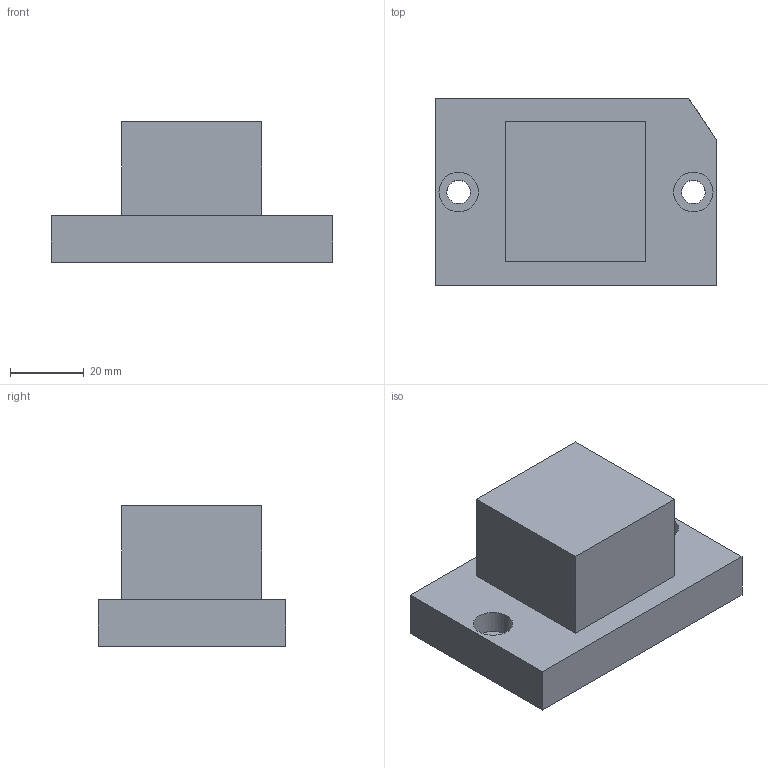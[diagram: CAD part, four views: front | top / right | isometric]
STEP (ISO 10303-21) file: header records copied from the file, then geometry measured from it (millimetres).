
FILE_DESCRIPTION (( 'STEP AP203' ), '1' );
FILE_NAME ('269-18-105.STEP', '2020-03-02T21:41:45', ( '' ), ( '' ), 'SwSTEP 2.0', 'SolidWorks 2017', '' );
FILE_SCHEMA (( 'CONFIG_CONTROL_DESIGN' ));
Length unit declared in the file: inch
Products named in the file (1): 269-18-105
Bounding box: 76.2 x 50.8 x 38.1 mm (x, y, z)
Volume: 80962.9 mm3; surface area: 16771 mm2
Topology: 1 solids, 1 shells, 38 faces, 92 edges, 60 vertices
Faces by surface type: plane 17, cylinder 16, cone 5
Entity records: 1264 total; most frequent: CARTESIAN_POINT 263, DIRECTION 197, ORIENTED_EDGE 184, EDGE_CURVE 92, AXIS2_PLACEMENT_3D 74, VERTEX_POINT 60, VECTOR 49, LINE 49
